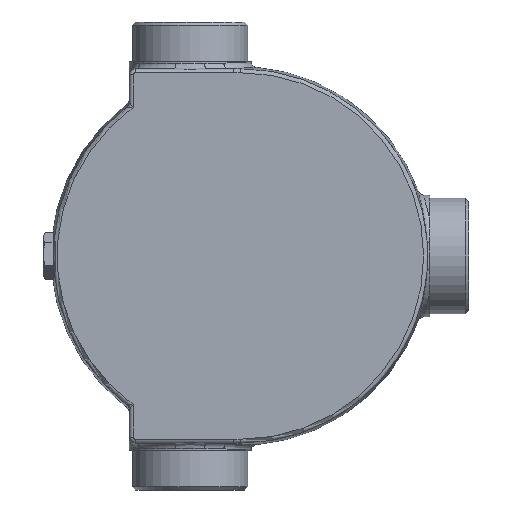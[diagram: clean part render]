
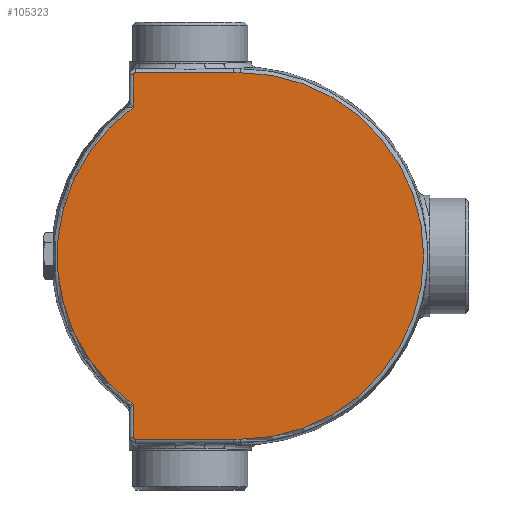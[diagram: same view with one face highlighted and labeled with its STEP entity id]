
A CAD part, left-side view. The second image highlights one B-rep face of the part: STEP entity #105323.
In plain terms, the highlighted planar face has unit normal (-1, 0, 0) as drawn and (0, -1, 0) by its records, which use the part's own axes.
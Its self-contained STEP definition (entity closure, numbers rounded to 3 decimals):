
#1949 = CARTESIAN_POINT ( 'NONE',  ( 55.5, -35.5, 96.698 ) ) ;
#3211 = DIRECTION ( 'NONE',  ( 0., 0., 1. ) ) ;
#3826 = ORIENTED_EDGE ( 'NONE', *, *, #88614, .T. ) ;
#8968 = DIRECTION ( 'NONE',  ( 0., 0., 1. ) ) ;
#10310 = AXIS2_PLACEMENT_3D ( 'NONE', #65021, #36643, #73847 ) ;
#10951 = DIRECTION ( 'NONE',  ( 0., 0., 1. ) ) ;
#11262 = CARTESIAN_POINT ( 'NONE',  ( 0., -35.5, 0. ) ) ;
#12008 = DIRECTION ( 'NONE',  ( 0., -1., 0. ) ) ;
#12585 = EDGE_CURVE ( 'NONE', #46955, #42832, #82602, .T. ) ;
#14055 = EDGE_CURVE ( 'NONE', #102925, #103041, #115315, .T. ) ;
#15241 = CARTESIAN_POINT ( 'NONE',  ( 0., -35.5, 0. ) ) ;
#15400 = VECTOR ( 'NONE', #68764, 1000. ) ;
#15764 = VECTOR ( 'NONE', #34065, 1000. ) ;
#16306 = VERTEX_POINT ( 'NONE', #21037 ) ;
#20872 = DIRECTION ( 'NONE',  ( 0., -1., 0. ) ) ;
#21037 = CARTESIAN_POINT ( 'NONE',  ( 3.606, -35.5, -94.698 ) ) ;
#22752 = VERTEX_POINT ( 'NONE', #66354 ) ;
#25061 = CARTESIAN_POINT ( 'NONE',  ( 55.5, -35.5, -76.815 ) ) ;
#26004 = CARTESIAN_POINT ( 'NONE',  ( 55.5, -35.5, 93.698 ) ) ;
#26152 = CARTESIAN_POINT ( 'NONE',  ( 54.5, -35.5, 94.698 ) ) ;
#26406 = ORIENTED_EDGE ( 'NONE', *, *, #71192, .T. ) ;
#27654 = DIRECTION ( 'NONE',  ( 0., 1., 0. ) ) ;
#31109 = CARTESIAN_POINT ( 'NONE',  ( 55.5, -35.5, -93.698 ) ) ;
#34065 = DIRECTION ( 'NONE',  ( -1., 0., 0. ) ) ;
#34443 = AXIS2_PLACEMENT_3D ( 'NONE', #15241, #91223, #63226 ) ;
#36643 = DIRECTION ( 'NONE',  ( 0., -1., 0. ) ) ;
#37450 = CIRCLE ( 'NONE', #10310, 94.767 ) ;
#41852 = CIRCLE ( 'NONE', #92987, 94.767 ) ;
#42200 = AXIS2_PLACEMENT_3D ( 'NONE', #11262, #20872, #88052 ) ;
#42832 = VERTEX_POINT ( 'NONE', #26004 ) ;
#43248 = EDGE_LOOP ( 'NONE', ( #121540, #109517, #84901, #3826, #47933, #88163, #26406, #93560, #83956, #84620 ) ) ;
#44339 = EDGE_CURVE ( 'NONE', #46955, #81095, #100960, .T. ) ;
#45050 = DIRECTION ( 'NONE',  ( 0., 1., 0. ) ) ;
#46955 = VERTEX_POINT ( 'NONE', #26152 ) ;
#47933 = ORIENTED_EDGE ( 'NONE', *, *, #12585, .F. ) ;
#48253 = EDGE_CURVE ( 'NONE', #88915, #72545, #37450, .T. ) ;
#48542 = CARTESIAN_POINT ( 'NONE',  ( 0., -35.5, 0. ) ) ;
#50062 = FACE_OUTER_BOUND ( 'NONE', #43248, .T. ) ;
#54401 = AXIS2_PLACEMENT_3D ( 'NONE', #65206, #27654, #104098 ) ;
#55066 = DIRECTION ( 'NONE',  ( 0., 0., 1. ) ) ;
#56661 = CARTESIAN_POINT ( 'NONE',  ( 0., -35.5, -94.767 ) ) ;
#57409 = EDGE_CURVE ( 'NONE', #72545, #16306, #64757, .T. ) ;
#60852 = CARTESIAN_POINT ( 'NONE',  ( 3.606, -35.5, 94.698 ) ) ;
#63226 = DIRECTION ( 'NONE',  ( 0., 0., 1. ) ) ;
#63661 = CARTESIAN_POINT ( 'NONE',  ( 0., -35.5, 94.698 ) ) ;
#64757 = CIRCLE ( 'NONE', #42200, 94.767 ) ;
#65021 = CARTESIAN_POINT ( 'NONE',  ( 0., -35.5, 0. ) ) ;
#65206 = CARTESIAN_POINT ( 'NONE',  ( 54.5, -35.5, -93.698 ) ) ;
#66354 = CARTESIAN_POINT ( 'NONE',  ( 55.5, -35.5, 76.815 ) ) ;
#68228 = CIRCLE ( 'NONE', #122117, 94.767 ) ;
#68764 = DIRECTION ( 'NONE',  ( 0., 0., 1. ) ) ;
#71192 = EDGE_CURVE ( 'NONE', #81095, #88915, #41852, .T. ) ;
#72545 = VERTEX_POINT ( 'NONE', #56661 ) ;
#73847 = DIRECTION ( 'NONE',  ( 0., 0., 1. ) ) ;
#81095 = VERTEX_POINT ( 'NONE', #60852 ) ;
#81760 = DIRECTION ( 'NONE',  ( 1., 0., 0. ) ) ;
#82602 = CIRCLE ( 'NONE', #108331, 1. ) ;
#83956 = ORIENTED_EDGE ( 'NONE', *, *, #57409, .T. ) ;
#84620 = ORIENTED_EDGE ( 'NONE', *, *, #117641, .T. ) ;
#84901 = ORIENTED_EDGE ( 'NONE', *, *, #96285, .T. ) ;
#88052 = DIRECTION ( 'NONE',  ( 0., 0., 1. ) ) ;
#88163 = ORIENTED_EDGE ( 'NONE', *, *, #44339, .T. ) ;
#88386 = CARTESIAN_POINT ( 'NONE',  ( 0., -35.5, 0. ) ) ;
#88614 = EDGE_CURVE ( 'NONE', #22752, #42832, #100609, .T. ) ;
#88915 = VERTEX_POINT ( 'NONE', #123808 ) ;
#89238 = VECTOR ( 'NONE', #81760, 1000. ) ;
#89875 = VECTOR ( 'NONE', #8968, 1000. ) ;
#90515 = VERTEX_POINT ( 'NONE', #98612 ) ;
#91223 = DIRECTION ( 'NONE',  ( 0., 1., 0. ) ) ;
#91827 = CARTESIAN_POINT ( 'NONE',  ( 54.5, -35.5, 93.698 ) ) ;
#92987 = AXIS2_PLACEMENT_3D ( 'NONE', #88386, #12008, #3211 ) ;
#93560 = ORIENTED_EDGE ( 'NONE', *, *, #48253, .T. ) ;
#96285 = EDGE_CURVE ( 'NONE', #103041, #22752, #68228, .T. ) ;
#98612 = CARTESIAN_POINT ( 'NONE',  ( 54.5, -35.5, -94.698 ) ) ;
#99350 = CIRCLE ( 'NONE', #54401, 1. ) ;
#100609 = LINE ( 'NONE', #1949, #15400 ) ;
#100960 = LINE ( 'NONE', #63661, #15764 ) ;
#101303 = LINE ( 'NONE', #120579, #89238 ) ;
#102514 = PLANE ( 'NONE',  #34443 ) ;
#102925 = VERTEX_POINT ( 'NONE', #31109 ) ;
#103041 = VERTEX_POINT ( 'NONE', #25061 ) ;
#104098 = DIRECTION ( 'NONE',  ( 0., 0., 1. ) ) ;
#105323 = ADVANCED_FACE ( 'NONE', ( #50062 ), #102514, .F. ) ;
#106225 = EDGE_CURVE ( 'NONE', #102925, #90515, #99350, .T. ) ;
#108331 = AXIS2_PLACEMENT_3D ( 'NONE', #91827, #45050, #55066 ) ;
#109517 = ORIENTED_EDGE ( 'NONE', *, *, #14055, .T. ) ;
#113806 = CARTESIAN_POINT ( 'NONE',  ( 55.5, -35.5, -77.745 ) ) ;
#115315 = LINE ( 'NONE', #113806, #89875 ) ;
#115784 = DIRECTION ( 'NONE',  ( 0., -1., 0. ) ) ;
#117641 = EDGE_CURVE ( 'NONE', #16306, #90515, #101303, .T. ) ;
#120579 = CARTESIAN_POINT ( 'NONE',  ( 57.5, -35.5, -94.698 ) ) ;
#121540 = ORIENTED_EDGE ( 'NONE', *, *, #106225, .F. ) ;
#122117 = AXIS2_PLACEMENT_3D ( 'NONE', #48542, #115784, #10951 ) ;
#123808 = CARTESIAN_POINT ( 'NONE',  ( 0., -35.5, 94.767 ) ) ;
